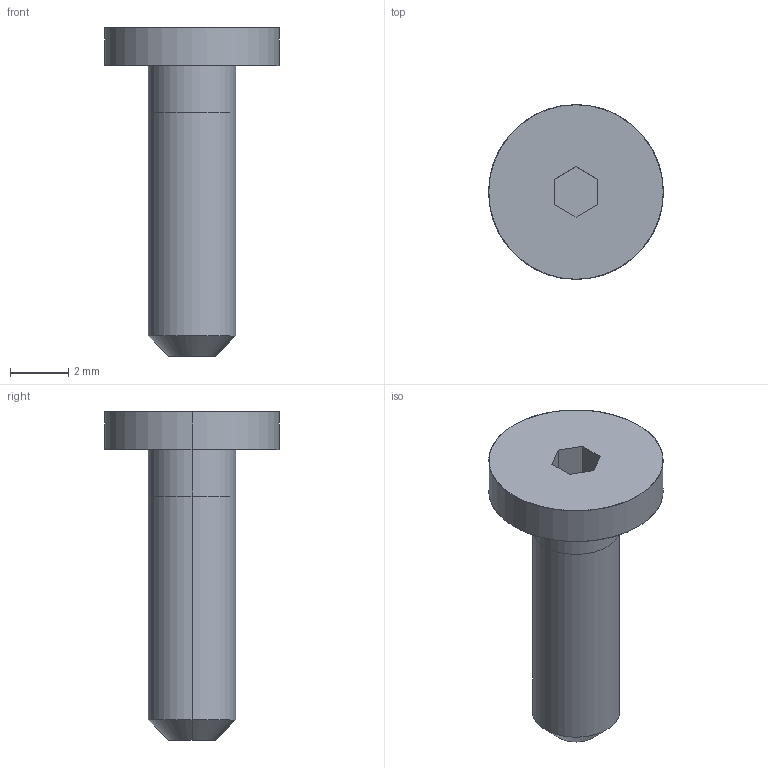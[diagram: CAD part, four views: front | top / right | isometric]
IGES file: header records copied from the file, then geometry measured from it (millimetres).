
Global section: file name: E:\UnigraphicsGraphicData\MISUMI_PRESS-PARTS\IGES\3d_cbss3-10_03508_r00.igs; native system: NX V5.0; preprocessor: UGS NX IGES V5.0; author: MISUMI; date: 20110105.160201; units: millimetre
Bounding box: 6 x 6 x 11.3 mm (x, y, z)
Surface area: 181.4 mm2 (no closed solid volume)
Topology: 0 solids, 0 shells, 18 faces, 100 edges, 100 vertices
Faces by surface type: bspline 18
